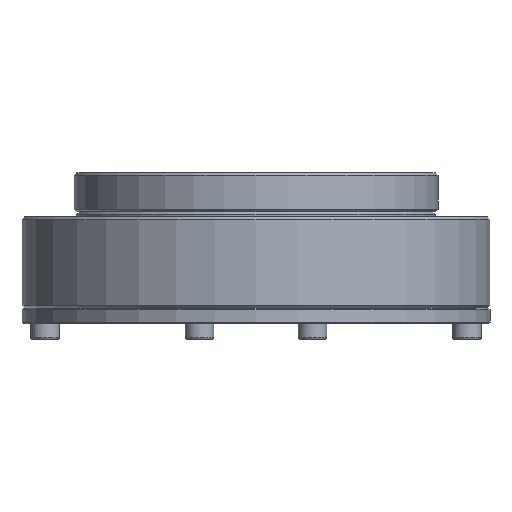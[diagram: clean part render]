
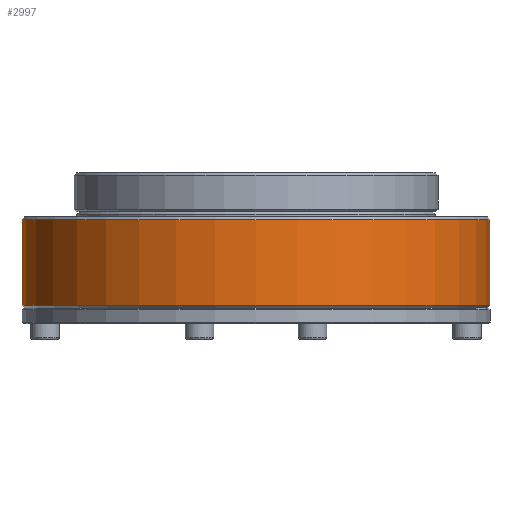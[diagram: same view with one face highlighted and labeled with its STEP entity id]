
A CAD part, front view. The second image highlights one B-rep face of the part: STEP entity #2997.
In plain terms, the highlighted cylindrical face has radius 45 mm (diameter 90 mm), a full revolution.
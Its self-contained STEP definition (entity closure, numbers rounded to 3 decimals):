
#2402=CYLINDRICAL_SURFACE('',#11135,45.);
#2997=ADVANCED_FACE('',(#4295,#4296),#2402,.T.);
#4295=FACE_BOUND('',#5292,.T.);
#4296=FACE_BOUND('',#5293,.T.);
#5292=EDGE_LOOP('',(#6460));
#5293=EDGE_LOOP('',(#6461));
#6460=ORIENTED_EDGE('',*,*,#9056,.F.);
#6461=ORIENTED_EDGE('',*,*,#9055,.T.);
#8196=VERTEX_POINT('',#15937);
#8197=VERTEX_POINT('',#15940);
#9055=EDGE_CURVE('',#8196,#8196,#10081,.T.);
#9056=EDGE_CURVE('',#8197,#8197,#10082,.T.);
#10081=CIRCLE('',#11132,45.);
#10082=CIRCLE('',#11134,45.);
#11132=AXIS2_PLACEMENT_3D('',#15936,#13203,#13204);
#11134=AXIS2_PLACEMENT_3D('',#15939,#13207,#13208);
#11135=AXIS2_PLACEMENT_3D('',#15941,#13209,#13210);
#13203=DIRECTION('',(0.,0.,-1.));
#13204=DIRECTION('',(-1.,0.,0.));
#13207=DIRECTION('',(0.,0.,-1.));
#13208=DIRECTION('',(-1.,0.,0.));
#13209=DIRECTION('',(0.,0.,-1.));
#13210=DIRECTION('',(-1.,0.,0.));
#15936=CARTESIAN_POINT('',(0.,0.,17.));
#15937=CARTESIAN_POINT('',(-45.,0.,17.));
#15939=CARTESIAN_POINT('',(0.,0.,0.5));
#15940=CARTESIAN_POINT('',(-45.,0.,0.5));
#15941=CARTESIAN_POINT('',(0.,0.,0.));
